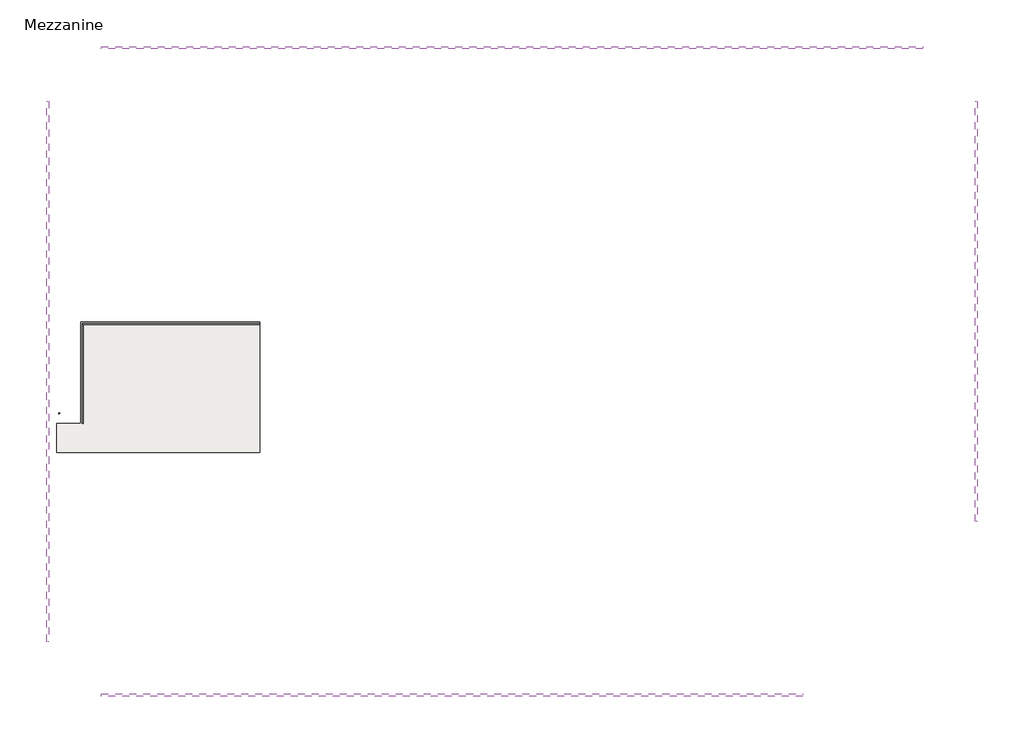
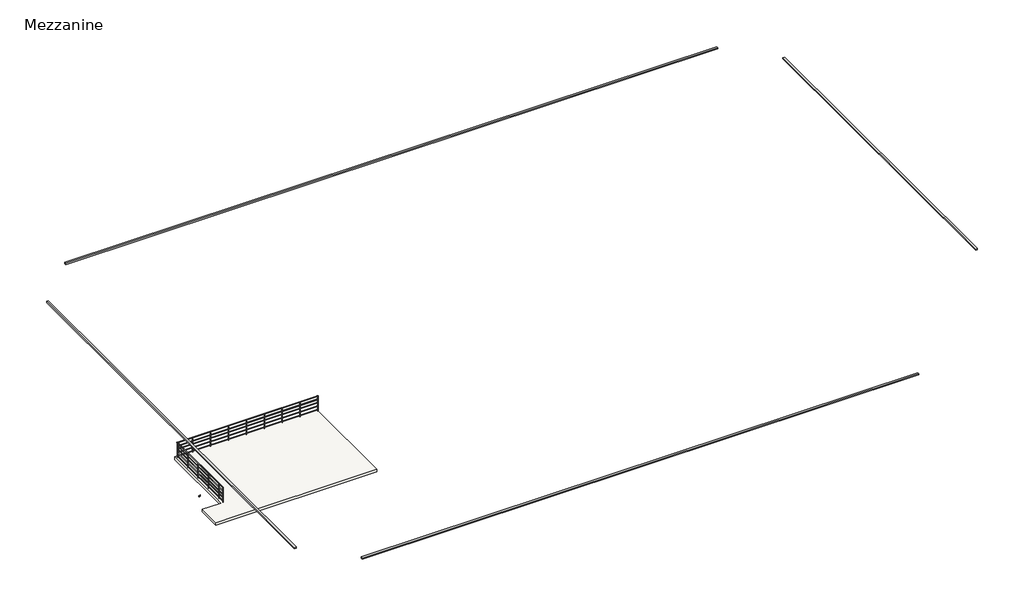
# One storey: 5 proxies, 1 railing, 1 slab.
"""IFC4 building model written with IfcOpenShell, lengths in millimetres."""

import ifcopenshell
import ifcopenshell.guid

model = None  # the IFC model being written
_history = None  # IfcOwnerHistory: only IFC2X3 demands one
_inside = {}  # id of a spatial element -> (the spatial element, [elements in it])
_under = {}  # id of a project, library or spatial element -> (it, [spatial elements below it])
_declared = {}  # id of a project -> (the project, [libraries it declares])
_typed = {}  # id of a type object -> (the type object, [elements of that type])
_made_of = {}  # id of a material, layer set ... -> (it, [elements and type objects made of it])


def new_model(schema):
    """Start an empty IFC model of exactly this schema.

    Asked for "IFC4X3", IfcOpenShell would pick the latest addendum, in which some entities
    have other attributes; the version numbers below select the first issue.
    IFC2X3 requires an IfcOwnerHistory on every rooted entity: one is made here for all.
    """
    global model, _history
    if schema == "IFC4X3":
        model = ifcopenshell.file(schema_version=(4, 3, 0, 0))
    else:
        model = ifcopenshell.file(schema=schema)
    _inside.clear()
    _under.clear()
    _declared.clear()
    _typed.clear()
    _made_of.clear()
    _history = None
    if model.schema == "IFC2X3":
        org = make("IfcOrganization", Name="unknown")
        user = make(
            "IfcPersonAndOrganization",
            ThePerson=make("IfcPerson", FamilyName="unknown"),
            TheOrganization=org,
        )
        app = make(
            "IfcApplication",
            ApplicationDeveloper=org,
            Version="unknown",
            ApplicationFullName="unknown",
            ApplicationIdentifier="unknown",
        )
        _history = make(
            "IfcOwnerHistory",
            OwningUser=user,
            OwningApplication=app,
            ChangeAction="ADDED",
            CreationDate=0,
        )
    return model


def make(cls, **values):
    """One entity of the class cls with the attributes given. An attribute that is None is left unset."""
    return model.create_entity(
        cls, **{name: value for name, value in values.items() if value is not None}
    )


def rooted(cls, **values):
    """An entity with a GlobalId (a new one), such as an element, a storey or a relation."""
    return make(cls, GlobalId=ifcopenshell.guid.new(), OwnerHistory=_history, **values)


def si_unit(unit_type, name, prefix=None):
    """IfcSIUnit, for example si_unit("LENGTHUNIT", "METRE", prefix="MILLI")."""
    return make("IfcSIUnit", UnitType=unit_type, Prefix=prefix, Name=name)


def assignment(units):
    """IfcUnitAssignment: the units of a project."""
    return None if units is None else make("IfcUnitAssignment", Units=units)


def point(xyz):
    """IfcCartesianPoint."""
    return None if xyz is None else make("IfcCartesianPoint", Coordinates=xyz)


def direction(xyz):
    """IfcDirection."""
    return None if xyz is None else make("IfcDirection", DirectionRatios=xyz)


def frame(location, z_axis=None, x_axis=None):
    """IfcAxis2Placement3D, a coordinate frame: its origin and axes. An axis left out is left unset."""
    return make(
        "IfcAxis2Placement3D",
        Location=point(location),
        Axis=direction(z_axis),
        RefDirection=direction(x_axis),
    )


def frame_2d(location, x_axis=None):
    """IfcAxis2Placement2D, a coordinate frame in the plane: its origin and x axis."""
    return make(
        "IfcAxis2Placement2D", Location=point(location), RefDirection=direction(x_axis)
    )


def origin():
    """The frame at (0, 0, 0) with its axes left unset."""
    return frame((0.0, 0.0, 0.0))


def origin_with_axes():
    """The frame at (0, 0, 0) with the z axis (0, 0, 1) and the x axis (1, 0, 0) written out."""
    return frame((0.0, 0.0, 0.0), z_axis=(0.0, 0.0, 1.0), x_axis=(1.0, 0.0, 0.0))


def place(relative_to, where):
    """IfcLocalPlacement: puts the frame where relative to a parent placement (None: the world)."""
    return make(
        "IfcLocalPlacement", PlacementRelTo=relative_to, RelativePlacement=where
    )


def context(
    kind, dimensions, precision=None, world=None, true_north=None, identifier=None
):
    """IfcGeometricRepresentationContext, for example the 3D "Model" context."""
    return make(
        "IfcGeometricRepresentationContext",
        ContextIdentifier=identifier,
        ContextType=kind,
        CoordinateSpaceDimension=dimensions,
        Precision=precision,
        WorldCoordinateSystem=world,
        TrueNorth=true_north,
    )


def project(units=None, contexts=None):
    """IfcProject with its units and contexts."""
    return rooted(
        "IfcProject",
        Name="project",
        RepresentationContexts=contexts,
        UnitsInContext=assignment(units),
    )


def spatial(cls, under=None, at=None, **own):
    """A site, building, storey or space (cls), placed at a placement, below another one or the project."""
    s = rooted(cls, ObjectPlacement=at, **own)
    if under is not None:
        _under.setdefault(under.id(), (under, []))[1].append(s)
    return s


def polyline(points):
    """IfcPolyline through the points."""
    return make("IfcPolyline", Points=[point(p) for p in points])


def circle_curve(where, radius):
    """IfcCircle in the frame where."""
    return make("IfcCircle", Position=where, Radius=radius)


def ellipse_curve(where, semi_axis1, semi_axis2):
    """IfcEllipse in the frame where."""
    return make(
        "IfcEllipse", Position=where, SemiAxis1=semi_axis1, SemiAxis2=semi_axis2
    )


def trimmed(basis, trim1, trim2, sense, master):
    """IfcTrimmedCurve: the piece of a basis curve between two trims."""
    return make(
        "IfcTrimmedCurve",
        BasisCurve=basis,
        Trim1=trim1,
        Trim2=trim2,
        SenseAgreement=sense,
        MasterRepresentation=master,
    )


def segment(curve, same_sense, transition):
    """IfcCompositeCurveSegment."""
    return make(
        "IfcCompositeCurveSegment",
        Transition=transition,
        SameSense=same_sense,
        ParentCurve=curve,
    )


def composite_curve(segments, self_intersect=None):
    """IfcCompositeCurve: segments joined end to end."""
    return make("IfcCompositeCurve", Segments=segments, SelfIntersect=self_intersect)


def outline(outer, holes=None, kind="AREA"):
    """IfcArbitraryClosedProfileDef: a profile drawn as a closed curve; with holes, ...WithVoids."""
    if holes is None:
        return make("IfcArbitraryClosedProfileDef", ProfileType=kind, OuterCurve=outer)
    return make(
        "IfcArbitraryProfileDefWithVoids",
        ProfileType=kind,
        OuterCurve=outer,
        InnerCurves=holes,
    )


def extrude(swept, where, along, depth):
    """IfcExtrudedAreaSolid: the profile swept, set in the frame where, extruded along a direction by depth."""
    return make(
        "IfcExtrudedAreaSolid",
        SweptArea=swept,
        Position=where,
        ExtrudedDirection=direction(along),
        Depth=depth,
    )


def shape(context_of_items, identifier, shape_type, items):
    """IfcShapeRepresentation: the items that make up one representation, for example the "Body"."""
    return make(
        "IfcShapeRepresentation",
        ContextOfItems=context_of_items,
        RepresentationIdentifier=identifier,
        RepresentationType=shape_type,
        Items=items,
    )


def source(mapping_origin, context_of_items, identifier, shape_type, items):
    """IfcRepresentationMap: a shape defined once, which mapped items show again and again."""
    return make(
        "IfcRepresentationMap",
        MappingOrigin=mapping_origin,
        MappedRepresentation=shape(context_of_items, identifier, shape_type, items),
    )


def transform(
    local_origin,
    x_axis=None,
    y_axis=None,
    z_axis=None,
    scale=None,
    scale2=None,
    scale3=None,
    uniform=True,
):
    """IfcCartesianTransformationOperator3D, or its non-uniform kind. x_axis, y_axis, z_axis: its Axis1, 2, 3."""
    if uniform:
        return make(
            "IfcCartesianTransformationOperator3D",
            Axis1=direction(x_axis),
            Axis2=direction(y_axis),
            LocalOrigin=point(local_origin),
            Scale=scale,
            Axis3=direction(z_axis),
        )
    return make(
        "IfcCartesianTransformationOperator3DnonUniform",
        Axis1=direction(x_axis),
        Axis2=direction(y_axis),
        LocalOrigin=point(local_origin),
        Scale=scale,
        Axis3=direction(z_axis),
        Scale2=scale2,
        Scale3=scale3,
    )


def mapped(mapping_source, mapping_target):
    """IfcMappedItem: shows the shape of a source again, moved by a transform."""
    return make(
        "IfcMappedItem", MappingSource=mapping_source, MappingTarget=mapping_target
    )


def made_of(thing, what):
    """Note that an element or type object is made of a material, layer set ...; save() writes the relation."""
    if what is not None:
        _made_of.setdefault(what.id(), (what, []))[1].append(thing)
    return thing


def element(
    cls,
    number,
    at=None,
    inside=None,
    cuts=None,
    type_object=None,
    material=None,
    context=None,
    identifier="Body",
    shape_type=None,
    held_by="IfcProductDefinitionShape",
    body=None,
    shapes=None,
    **own,
):
    """One element of the class cls, such as IfcWall. Its Tag is "e" and its number.

    at: its placement. inside: the storey or other place that contains it. cuts: it is an
    opening in that element (IfcRelVoidsElement). A single representation is given by context,
    identifier, shape_type and body (its items); several are given by shapes. held_by: the class
    of the entity that holds the representations. save() writes the other relations.
    """
    e = rooted(cls, Tag="e%d" % number, ObjectPlacement=at, **own)
    if body is not None:
        shapes = [shape(context, identifier, shape_type, body)]
    if shapes is not None:
        e.Representation = make(held_by, Representations=shapes)
    if inside is not None:
        _inside.setdefault(inside.id(), (inside, []))[1].append(e)
    if cuts is not None:
        rooted(
            "IfcRelVoidsElement", RelatingBuildingElement=cuts, RelatedOpeningElement=e
        )
    if type_object is not None:
        _typed.setdefault(type_object.id(), (type_object, []))[1].append(e)
    return made_of(e, material)


def aggregate(whole, parts):
    """IfcRelAggregates: a whole, such as a stair, and the parts it consists of."""
    return rooted("IfcRelAggregates", RelatingObject=whole, RelatedObjects=parts)


def save(model, path):
    """Write the relations noted so far, then the file.

    IfcRelAggregates (storeys below a building ...), IfcRelContainedInSpatialStructure (elements
    in a storey), IfcRelDefinesByType, IfcRelAssociatesMaterial and IfcRelDeclares: one each for
    every whole, place, type object, material and project.
    """
    for whole, parts in _under.values():
        aggregate(whole, parts)
    for where, things in _inside.values():
        rooted(
            "IfcRelContainedInSpatialStructure",
            RelatedElements=things,
            RelatingStructure=where,
        )
    for kind, things in _typed.values():
        rooted("IfcRelDefinesByType", RelatedObjects=things, RelatingType=kind)
    for what, things in _made_of.values():
        rooted("IfcRelAssociatesMaterial", RelatedObjects=things, RelatingMaterial=what)
    for by, libraries in _declared.values():
        rooted("IfcRelDeclares", RelatingContext=by, RelatedDefinitions=libraries)
    model.write(path)


def plane_surface(at):
    """IfcPlane: the flat surface through the origin of the frame at, square to its z axis."""
    return make("IfcPlane", Position=at)


def cylinder_surface(at, radius):
    """IfcCylindricalSurface: all points at the distance radius from the z axis of the frame at."""
    return make("IfcCylindricalSurface", Position=at, Radius=radius)


def revolved_surface(curve, axis_point, axis_direction):
    """IfcSurfaceOfRevolution: the curve turned about the line through axis_point along axis_direction."""
    return make(
        "IfcSurfaceOfRevolution",
        SweptCurve=make("IfcArbitraryOpenProfileDef", ProfileType="CURVE", Curve=curve),
        AxisPosition=make("IfcAxis1Placement", Location=point(axis_point), Axis=direction(axis_direction)),
    )


def advanced_brep(points, edges, surfaces, faces):
    """IfcAdvancedBrep: a solid bounded by faces that lie on surfaces and meet in shared edges.

    An edge is (start, end): straight between two places in points (the first is 0);
    or (start, end, curve); or (start, end, curve, False) where it runs against its curve.
    A face is (place in surfaces, loops), or (place, loops, False) where it looks against
    its surface's normal. A loop lists edges by number (the first is 1), with a minus sign
    where the edge is run from its end to its start. The first loop is the outer one.
    """
    corners = [point(p) for p in points]
    vertices = [make("IfcVertexPoint", VertexGeometry=c) for c in corners]
    made = []
    for start, end, *more in edges:
        made.append(
            make(
                "IfcEdgeCurve",
                EdgeStart=vertices[start],
                EdgeEnd=vertices[end],
                EdgeGeometry=more[0] if more else make("IfcPolyline", Points=[corners[start], corners[end]]),
                SameSense=more[1] if len(more) > 1 else True,
            )
        )
    hull = []
    for where, loops, *sense in faces:
        bounds = []
        for j, loop in enumerate(loops):
            ring = [make("IfcOrientedEdge", EdgeElement=made[abs(k) - 1], Orientation=k > 0) for k in loop]
            bounds.append(
                make(
                    "IfcFaceOuterBound" if j == 0 else "IfcFaceBound",
                    Bound=make("IfcEdgeLoop", EdgeList=ring),
                    Orientation=True,
                )
            )
        hull.append(make("IfcAdvancedFace", Bounds=bounds, FaceSurface=surfaces[where], SameSense=sense[0] if sense else True))
    return make("IfcAdvancedBrep", Outer=make("IfcClosedShell", CfsFaces=hull))


def m_support_metal_circular_m_support_metal_circular_cf76aa7a(model_context):
    return source(origin(), model_context, "Body", "SolidModel", [
        advanced_brep(
        [(-6.0, 0.0, 0.0), (6.0, 0.0, 0.0), (-6.0, 0.0, -63.0), (6.0, 0.0, -63.0), (6.0, 12.0, -75.0), (-6.0, 12.0, -75.0), (-6.0, 43.0, -75.0), (6.0, 43.0, -75.0)],
        [
            (0, 1, circle_curve(origin_with_axes(), 6.0)),
            (1, 0, circle_curve(origin_with_axes(), 6.0)),
            (0, 2),
            (2, 3, circle_curve(frame((0.0, 0.0, -63.0), z_axis=(0.0, 0.0, 1.0), x_axis=(1.0, 0.0, 0.0)), 6.0)),
            (3, 1),
            (3, 2, circle_curve(frame((0.0, 0.0, -63.0), z_axis=(0.0, 0.0, 1.0), x_axis=(1.0, 0.0, 0.0)), 6.0)),
            (4, 3, circle_curve(frame((6.0, 12.0, -63.0), z_axis=(-1.0, 0.0, 0.0), x_axis=(0.0, -1.0, 0.0)), 12.0)),
            (2, 5, circle_curve(frame((-6.0, 12.0, -63.0), z_axis=(1.0, 0.0, 0.0), x_axis=(0.0, -1.0, 0.0)), 12.0)),
            (5, 4, circle_curve(frame((0.0, 12.0, -75.0), z_axis=(0.0, -1.0, 0.0), x_axis=(1.0, 0.0, 0.0)), 6.0)),
            (4, 5, circle_curve(frame((0.0, 12.0, -75.0), z_axis=(0.0, -1.0, 0.0), x_axis=(1.0, 0.0, 0.0)), 6.0)),
            (6, 7, circle_curve(frame((0.0, 43.0, -75.0), z_axis=(0.0, 1.0, 0.0), x_axis=(1.0, 0.0, 0.0)), 6.0)),
            (7, 6, circle_curve(frame((0.0, 43.0, -75.0), z_axis=(0.0, 1.0, 0.0), x_axis=(1.0, 0.0, 0.0)), 6.0)),
            (5, 6),
            (7, 4),
        ],
        [
            plane_surface(origin_with_axes()),
            cylinder_surface(origin_with_axes(), 6.0),
            revolved_surface(trimmed(ellipse_curve(frame((0.0, 0.0, -63.0), z_axis=(0.0, 0.0, 1.0), x_axis=(1.0, 0.0, 0.0)), 6.0, 6.0), [point((-6.0, 0.0, -63.0))], [point((6.0, 0.0, -63.0))], True, "CARTESIAN"), (0.0, 12.0, -63.0), (1.0, 0.0, 0.0)),
            revolved_surface(trimmed(ellipse_curve(frame((0.0, 0.0, -63.0), z_axis=(0.0, 0.0, 1.0), x_axis=(1.0, 0.0, 0.0)), 6.0, 6.0), [point((6.0, 0.0, -63.0))], [point((-6.0, 0.0, -63.0))], True, "CARTESIAN"), (0.0, 12.0, -63.0), (1.0, 0.0, 0.0)),
            plane_surface(frame((0.0, 43.0, -75.0), z_axis=(0.0, 1.0, 0.0), x_axis=(1.0, 0.0, 0.0))),
            cylinder_surface(frame((0.0, 12.0, -75.0), z_axis=(0.0, -1.0, 0.0), x_axis=(1.0, 0.0, 0.0)), 6.0),
        ],
        [
            (0, [[1, 2]]),
            (1, [[-1, 3, 4, 5]]),
            (1, [[-2, -5, 6, -3]]),
            (2, [[7, -4, 8, 9]]),
            (3, [[-8, -6, -7, 10]]),
            (4, [[11, 12]]),
            (5, [[-9, 13, -12, 14]]),
            (5, [[-10, -14, -11, -13]]),
        ],
    ),
        extrude(outline(composite_curve([segment(trimmed(circle_curve(frame_2d((-75.0, 0.0)), 25.0), [point((-75.0, -25.0))], [point((-75.0, 25.0))], False, "CARTESIAN"), True, "CONTINUOUS"), segment(trimmed(circle_curve(frame_2d((-75.0, 0.0)), 25.0), [point((-75.0, 25.0))], [point((-75.0, -25.0))], False, "CARTESIAN"), True, "CONTINUOUS")], self_intersect=False)), frame((0.0, 43.0, 0.0), z_axis=(0.0, 1.0, 0.0), x_axis=(0.0, 0.0, 1.0)), (0.0, 0.0, 1.0), 12.0),
    ])


model = new_model("IFC4")

# Units and contexts
model_context = context("Model", 3, world=origin())
ifc_project = project(units=[si_unit("LENGTHUNIT", "METRE", prefix="MILLI")], contexts=[model_context])

# Site, building, storey
site = spatial("IfcSite", under=ifc_project)
building = spatial("IfcBuilding", under=site)
storey = spatial("IfcBuildingStorey", under=building, Name="Mezzanine", Elevation=3500.0)

# Proxies
placement = place(None, origin())
element("IfcBuildingElementProxy", 1, Name="Reveals", at=placement, inside=storey, context=model_context, shape_type="SweptSolid", body=[
    extrude(outline(polyline([(11070.0272279, -14331.9313057), (11070.0272279, -14434.4313057), (-20031.4727721, -14434.4313057), (-20031.4727721, -14331.9313057), (11070.0272279, -14331.9313057)])), frame((0.0, 0.0, 7200.0), z_axis=(0.0, 0.0, 1.0), x_axis=(1.0, 0.0, 0.0)), (0.0, 0.0, 1.0), 75.0),
])
element("IfcBuildingElementProxy", 2, Name="Reveals", at=placement, inside=storey, context=model_context, shape_type="SweptSolid", body=[
    extrude(outline(polyline([(-22344.4727721, -12018.7313057), (-22446.9727721, -12018.7313057), (-22446.9727721, 11955.0686943), (-22344.4727721, 11955.0686943), (-22344.4727721, -12018.7313057)])), frame((0.0, 0.0, 7200.0), z_axis=(0.0, 0.0, 1.0), x_axis=(1.0, 0.0, 0.0)), (0.0, 0.0, 1.0), 75.0),
])
element("IfcBuildingElementProxy", 3, Name="Reveals", at=placement, inside=storey, context=model_context, shape_type="SweptSolid", body=[
    extrude(outline(polyline([(-20031.4727721, 14268.0686943), (-20031.4727721, 14370.5686943), (16392.5272279, 14370.5686943), (16392.5272279, 14268.0686943), (-20031.4727721, 14268.0686943)])), frame((0.0, 0.0, 7200.0), z_axis=(0.0, 0.0, 1.0), x_axis=(1.0, 0.0, 0.0)), (0.0, 0.0, 1.0), 75.0),
])
element("IfcBuildingElementProxy", 4, Name="Reveals", at=placement, inside=storey, context=model_context, shape_type="SweptSolid", body=[
    extrude(outline(polyline([(18705.5272279, 11955.0686943), (18808.0272279, 11955.0686943), (18808.0272279, -6696.4313057), (18705.5272279, -6696.4313057), (18705.5272279, 11955.0686943)])), frame((0.0, 0.0, 7200.0), z_axis=(0.0, 0.0, 1.0), x_axis=(1.0, 0.0, 0.0)), (0.0, 0.0, 1.0), 75.0),
])
m_support_metal_circular_m_support_metal_circular_shape = m_support_metal_circular_m_support_metal_circular_cf76aa7a(model_context)
element("IfcBuildingElementProxy", 5, Name="M_Support - Metal - Circular : M_Support - Metal - Circular", ObjectType="M_Support - Metal - Circular : M_Support - Metal - Circular", at=placement, inside=storey, context=model_context, shape_type="MappedRepresentation", body=[
    mapped(m_support_metal_circular_m_support_metal_circular_shape, transform((-21860.0727721, -1894.8153153, 4043.6776913), x_axis=(0.0, 1.0, 0.0), y_axis=(-1.0, 0.0, 0.0), z_axis=(0.0, 0.0, 1.0))),
])

# Railing
element("IfcRailing", 6, ObjectType="900mm Pipe", at=placement, inside=storey, context=model_context, shape_type="SolidModel", body=[
    advanced_brep(
    [(-12988.7227721, 2082.3186943, 4380.0), (-12988.7227721, 2042.3186943, 4380.0), (-20860.4727721, 2082.3186943, 4380.0), (-20820.4727721, 2042.3186943, 4380.0), (-20860.4727721, -2337.6813057, 4380.0), (-20820.4727721, -2337.6813057, 4380.0)],
    [
        (0, 1, circle_curve(frame((-12988.7227721, 2062.3186943, 4380.0), z_axis=(1.0, 0.0, 0.0), x_axis=(0.0, -1.0, 0.0)), 20.0)),
        (1, 0, circle_curve(frame((-12988.7227721, 2062.3186943, 4380.0), z_axis=(1.0, 0.0, 0.0), x_axis=(0.0, -1.0, 0.0)), 20.0)),
        (0, 2),
        (2, 3, ellipse_curve(frame((-20840.4727721, 2062.3186943, 4380.0), z_axis=(0.7071067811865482, 0.7071067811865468, 0.0), x_axis=(0.7071067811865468, -0.7071067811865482, 0.0)), 28.2842712, 20.0)),
        (3, 1),
        (3, 2, ellipse_curve(frame((-20840.4727721, 2062.3186943, 4380.0), z_axis=(0.7071067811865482, 0.7071067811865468, 0.0), x_axis=(0.7071067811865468, -0.7071067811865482, 0.0)), 28.2842712, 20.0)),
        (4, 5, circle_curve(frame((-20840.4727721, -2337.6813057, 4380.0), z_axis=(0.0, -1.0, 0.0), x_axis=(1.0, 0.0, 0.0)), 20.0)),
        (5, 4, circle_curve(frame((-20840.4727721, -2337.6813057, 4380.0), z_axis=(0.0, -1.0, 0.0), x_axis=(1.0, 0.0, 0.0)), 20.0)),
        (2, 4),
        (5, 3),
    ],
    [
        plane_surface(frame((-12988.7227721, 2062.3186943, 4400.0), z_axis=(1.0, 0.0, 0.0), x_axis=(0.0, -1.0, 0.0))),
        cylinder_surface(frame((-12988.7227721, 2062.3186943, 4380.0), z_axis=(1.0, 0.0, 0.0), x_axis=(0.0, -1.0, 0.0)), 20.0),
        plane_surface(frame((-20840.4727721, -2337.6813057, 4400.0), z_axis=(0.0, -1.0, 0.0), x_axis=(0.0, 0.0, -1.0))),
        cylinder_surface(frame((-20840.4727721, 2062.3186943, 4380.0), z_axis=(0.0, 1.0, 0.0), x_axis=(1.0, 0.0, 0.0)), 20.0),
    ],
    [
        (0, [[1, 2]]),
        (1, [[-1, 3, 4, 5]]),
        (1, [[-2, -5, 6, -3]]),
        (2, [[7, 8]]),
        (3, [[-4, 9, -8, 10]]),
        (3, [[-6, -10, -7, -9]]),
    ],
),
    advanced_brep(
    [(-12988.7227721, 2047.3186943, 4185.0), (-12988.7227721, 2077.3186943, 4185.0), (-20825.4727721, 2047.3186943, 4185.0), (-20855.4727721, 2077.3186943, 4185.0), (-20825.4727721, -2337.6813057, 4185.0), (-20855.4727721, -2337.6813057, 4185.0)],
    [
        (0, 1, circle_curve(frame((-12988.7227721, 2062.3186943, 4185.0), z_axis=(1.0, 0.0, 0.0), x_axis=(0.0, 1.0, 0.0)), 15.0)),
        (1, 0, circle_curve(frame((-12988.7227721, 2062.3186943, 4185.0), z_axis=(1.0, 0.0, 0.0), x_axis=(0.0, 1.0, 0.0)), 15.0)),
        (0, 2),
        (2, 3, ellipse_curve(frame((-20840.4727721, 2062.3186943, 4185.0), z_axis=(0.7071067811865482, 0.7071067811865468, 0.0), x_axis=(0.7071067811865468, -0.7071067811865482, 0.0)), 21.2132034, 15.0)),
        (3, 1),
        (3, 2, ellipse_curve(frame((-20840.4727721, 2062.3186943, 4185.0), z_axis=(0.7071067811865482, 0.7071067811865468, 0.0), x_axis=(0.7071067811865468, -0.7071067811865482, 0.0)), 21.2132034, 15.0)),
        (4, 5, circle_curve(frame((-20840.4727721, -2337.6813057, 4185.0), z_axis=(0.0, -1.0, 0.0), x_axis=(-1.0, 0.0, 0.0)), 15.0)),
        (5, 4, circle_curve(frame((-20840.4727721, -2337.6813057, 4185.0), z_axis=(0.0, -1.0, 0.0), x_axis=(-1.0, 0.0, 0.0)), 15.0)),
        (2, 4),
        (5, 3),
    ],
    [
        plane_surface(frame((-12988.7227721, 2062.3186943, 4200.0), z_axis=(1.0, 0.0, 0.0), x_axis=(0.0, -1.0, 0.0))),
        cylinder_surface(frame((-12988.7227721, 2062.3186943, 4185.0), z_axis=(1.0, 0.0, 0.0), x_axis=(0.0, 1.0, 0.0)), 15.0),
        plane_surface(frame((-20840.4727721, -2337.6813057, 4200.0), z_axis=(0.0, -1.0, 0.0), x_axis=(0.0, 0.0, -1.0))),
        cylinder_surface(frame((-20840.4727721, 2062.3186943, 4185.0), z_axis=(0.0, 1.0, 0.0), x_axis=(-1.0, 0.0, 0.0)), 15.0),
    ],
    [
        (0, [[1, 2]]),
        (1, [[-1, 3, 4, 5]]),
        (1, [[-2, -5, 6, -3]]),
        (2, [[7, 8]]),
        (3, [[-4, 9, -8, 10]]),
        (3, [[-6, -10, -7, -9]]),
    ],
),
    advanced_brep(
    [(-12988.7227721, 2047.3186943, 3985.0), (-12988.7227721, 2077.3186943, 3985.0), (-20825.4727721, 2047.3186943, 3985.0), (-20855.4727721, 2077.3186943, 3985.0), (-20825.4727721, -2337.6813057, 3985.0), (-20855.4727721, -2337.6813057, 3985.0)],
    [
        (0, 1, circle_curve(frame((-12988.7227721, 2062.3186943, 3985.0), z_axis=(1.0, 0.0, 0.0), x_axis=(0.0, 1.0, 0.0)), 15.0)),
        (1, 0, circle_curve(frame((-12988.7227721, 2062.3186943, 3985.0), z_axis=(1.0, 0.0, 0.0), x_axis=(0.0, 1.0, 0.0)), 15.0)),
        (0, 2),
        (2, 3, ellipse_curve(frame((-20840.4727721, 2062.3186943, 3985.0), z_axis=(0.7071067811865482, 0.7071067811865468, 0.0), x_axis=(0.7071067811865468, -0.7071067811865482, 0.0)), 21.2132034, 15.0)),
        (3, 1),
        (3, 2, ellipse_curve(frame((-20840.4727721, 2062.3186943, 3985.0), z_axis=(0.7071067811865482, 0.7071067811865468, 0.0), x_axis=(0.7071067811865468, -0.7071067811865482, 0.0)), 21.2132034, 15.0)),
        (4, 5, circle_curve(frame((-20840.4727721, -2337.6813057, 3985.0), z_axis=(0.0, -1.0, 0.0), x_axis=(-1.0, 0.0, 0.0)), 15.0)),
        (5, 4, circle_curve(frame((-20840.4727721, -2337.6813057, 3985.0), z_axis=(0.0, -1.0, 0.0), x_axis=(-1.0, 0.0, 0.0)), 15.0)),
        (2, 4),
        (5, 3),
    ],
    [
        plane_surface(frame((-12988.7227721, 2062.3186943, 4000.0), z_axis=(1.0, 0.0, 0.0), x_axis=(0.0, -1.0, 0.0))),
        cylinder_surface(frame((-12988.7227721, 2062.3186943, 3985.0), z_axis=(1.0, 0.0, 0.0), x_axis=(0.0, 1.0, 0.0)), 15.0),
        plane_surface(frame((-20840.4727721, -2337.6813057, 4000.0), z_axis=(0.0, -1.0, 0.0), x_axis=(0.0, 0.0, -1.0))),
        cylinder_surface(frame((-20840.4727721, 2062.3186943, 3985.0), z_axis=(0.0, 1.0, 0.0), x_axis=(-1.0, 0.0, 0.0)), 15.0),
    ],
    [
        (0, [[1, 2]]),
        (1, [[-1, 3, 4, 5]]),
        (1, [[-2, -5, 6, -3]]),
        (2, [[7, 8]]),
        (3, [[-4, 9, -8, 10]]),
        (3, [[-6, -10, -7, -9]]),
    ],
),
    advanced_brep(
    [(-12988.7227721, 2047.3186943, 3785.0), (-12988.7227721, 2077.3186943, 3785.0), (-20825.4727721, 2047.3186943, 3785.0), (-20855.4727721, 2077.3186943, 3785.0), (-20825.4727721, -2337.6813057, 3785.0), (-20855.4727721, -2337.6813057, 3785.0)],
    [
        (0, 1, circle_curve(frame((-12988.7227721, 2062.3186943, 3785.0), z_axis=(1.0, 0.0, 0.0), x_axis=(0.0, 1.0, 0.0)), 15.0)),
        (1, 0, circle_curve(frame((-12988.7227721, 2062.3186943, 3785.0), z_axis=(1.0, 0.0, 0.0), x_axis=(0.0, 1.0, 0.0)), 15.0)),
        (0, 2),
        (2, 3, ellipse_curve(frame((-20840.4727721, 2062.3186943, 3785.0), z_axis=(0.7071067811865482, 0.7071067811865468, 0.0), x_axis=(0.7071067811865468, -0.7071067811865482, 0.0)), 21.2132034, 15.0)),
        (3, 1),
        (3, 2, ellipse_curve(frame((-20840.4727721, 2062.3186943, 3785.0), z_axis=(0.7071067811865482, 0.7071067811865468, 0.0), x_axis=(0.7071067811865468, -0.7071067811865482, 0.0)), 21.2132034, 15.0)),
        (4, 5, circle_curve(frame((-20840.4727721, -2337.6813057, 3785.0), z_axis=(0.0, -1.0, 0.0), x_axis=(-1.0, 0.0, 0.0)), 15.0)),
        (5, 4, circle_curve(frame((-20840.4727721, -2337.6813057, 3785.0), z_axis=(0.0, -1.0, 0.0), x_axis=(-1.0, 0.0, 0.0)), 15.0)),
        (2, 4),
        (5, 3),
    ],
    [
        plane_surface(frame((-12988.7227721, 2062.3186943, 3800.0), z_axis=(1.0, 0.0, 0.0), x_axis=(0.0, -1.0, 0.0))),
        cylinder_surface(frame((-12988.7227721, 2062.3186943, 3785.0), z_axis=(1.0, 0.0, 0.0), x_axis=(0.0, 1.0, 0.0)), 15.0),
        plane_surface(frame((-20840.4727721, -2337.6813057, 3800.0), z_axis=(0.0, -1.0, 0.0), x_axis=(0.0, 0.0, -1.0))),
        cylinder_surface(frame((-20840.4727721, 2062.3186943, 3785.0), z_axis=(0.0, 1.0, 0.0), x_axis=(-1.0, 0.0, 0.0)), 15.0),
    ],
    [
        (0, [[1, 2]]),
        (1, [[-1, 3, 4, 5]]),
        (1, [[-2, -5, 6, -3]]),
        (2, [[7, 8]]),
        (3, [[-4, 9, -8, 10]]),
        (3, [[-6, -10, -7, -9]]),
    ],
),
    advanced_brep(
    [(-12988.7227721, 2047.3186943, 3585.0), (-12988.7227721, 2077.3186943, 3585.0), (-20825.4727721, 2047.3186943, 3585.0), (-20855.4727721, 2077.3186943, 3585.0), (-20825.4727721, -2337.6813057, 3585.0), (-20855.4727721, -2337.6813057, 3585.0)],
    [
        (0, 1, circle_curve(frame((-12988.7227721, 2062.3186943, 3585.0), z_axis=(1.0, 0.0, 0.0), x_axis=(0.0, 1.0, 0.0)), 15.0)),
        (1, 0, circle_curve(frame((-12988.7227721, 2062.3186943, 3585.0), z_axis=(1.0, 0.0, 0.0), x_axis=(0.0, 1.0, 0.0)), 15.0)),
        (0, 2),
        (2, 3, ellipse_curve(frame((-20840.4727721, 2062.3186943, 3585.0), z_axis=(0.7071067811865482, 0.7071067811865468, 0.0), x_axis=(0.7071067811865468, -0.7071067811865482, 0.0)), 21.2132034, 15.0)),
        (3, 1),
        (3, 2, ellipse_curve(frame((-20840.4727721, 2062.3186943, 3585.0), z_axis=(0.7071067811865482, 0.7071067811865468, 0.0), x_axis=(0.7071067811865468, -0.7071067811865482, 0.0)), 21.2132034, 15.0)),
        (4, 5, circle_curve(frame((-20840.4727721, -2337.6813057, 3585.0), z_axis=(0.0, -1.0, 0.0), x_axis=(-1.0, 0.0, 0.0)), 15.0)),
        (5, 4, circle_curve(frame((-20840.4727721, -2337.6813057, 3585.0), z_axis=(0.0, -1.0, 0.0), x_axis=(-1.0, 0.0, 0.0)), 15.0)),
        (2, 4),
        (5, 3),
    ],
    [
        plane_surface(frame((-12988.7227721, 2062.3186943, 3600.0), z_axis=(1.0, 0.0, 0.0), x_axis=(0.0, -1.0, 0.0))),
        cylinder_surface(frame((-12988.7227721, 2062.3186943, 3585.0), z_axis=(1.0, 0.0, 0.0), x_axis=(0.0, 1.0, 0.0)), 15.0),
        plane_surface(frame((-20840.4727721, -2337.6813057, 3600.0), z_axis=(0.0, -1.0, 0.0), x_axis=(0.0, 0.0, -1.0))),
        cylinder_surface(frame((-20840.4727721, 2062.3186943, 3585.0), z_axis=(0.0, 1.0, 0.0), x_axis=(-1.0, 0.0, 0.0)), 15.0),
    ],
    [
        (0, [[1, 2]]),
        (1, [[-1, 3, 4, 5]]),
        (1, [[-2, -5, 6, -3]]),
        (2, [[7, 8]]),
        (3, [[-4, 9, -8, 10]]),
        (3, [[-6, -10, -7, -9]]),
    ],
),
    extrude(outline(composite_curve([segment(trimmed(circle_curve(frame_2d((-20840.4727721, -1937.6813057)), 12.5), [point((-20827.9727721, -1937.6813057))], [point((-20852.9727721, -1937.6813057))], False, "CARTESIAN"), True, "CONTINUOUS"), segment(trimmed(circle_curve(frame_2d((-20840.4727721, -1937.6813057)), 12.5), [point((-20852.9727721, -1937.6813057))], [point((-20827.9727721, -1937.6813057))], False, "CARTESIAN"), True, "CONTINUOUS")], self_intersect=False)), frame((0.0, 0.0, 3500.0), z_axis=(0.0, 0.0, 1.0), x_axis=(1.0, 0.0, 0.0)), (0.0, 0.0, 1.0), 860.0),
    extrude(outline(composite_curve([segment(trimmed(circle_curve(frame_2d((-20840.4727721, -937.6813057)), 12.5), [point((-20827.9727721, -937.6813057))], [point((-20852.9727721, -937.6813057))], False, "CARTESIAN"), True, "CONTINUOUS"), segment(trimmed(circle_curve(frame_2d((-20840.4727721, -937.6813057)), 12.5), [point((-20852.9727721, -937.6813057))], [point((-20827.9727721, -937.6813057))], False, "CARTESIAN"), True, "CONTINUOUS")], self_intersect=False)), frame((0.0, 0.0, 3500.0), z_axis=(0.0, 0.0, 1.0), x_axis=(1.0, 0.0, 0.0)), (0.0, 0.0, 1.0), 860.0),
    extrude(outline(composite_curve([segment(trimmed(circle_curve(frame_2d((-20840.4727721, 62.3186943)), 12.5), [point((-20827.9727721, 62.3186943))], [point((-20852.9727721, 62.3186943))], False, "CARTESIAN"), True, "CONTINUOUS"), segment(trimmed(circle_curve(frame_2d((-20840.4727721, 62.3186943)), 12.5), [point((-20852.9727721, 62.3186943))], [point((-20827.9727721, 62.3186943))], False, "CARTESIAN"), True, "CONTINUOUS")], self_intersect=False)), frame((0.0, 0.0, 3500.0), z_axis=(0.0, 0.0, 1.0), x_axis=(1.0, 0.0, 0.0)), (0.0, 0.0, 1.0), 860.0),
    extrude(outline(composite_curve([segment(trimmed(circle_curve(frame_2d((-20840.4727721, 1062.3186943)), 12.5), [point((-20827.9727721, 1062.3186943))], [point((-20852.9727721, 1062.3186943))], False, "CARTESIAN"), True, "CONTINUOUS"), segment(trimmed(circle_curve(frame_2d((-20840.4727721, 1062.3186943)), 12.5), [point((-20852.9727721, 1062.3186943))], [point((-20827.9727721, 1062.3186943))], False, "CARTESIAN"), True, "CONTINUOUS")], self_intersect=False)), frame((0.0, 0.0, 3500.0), z_axis=(0.0, 0.0, 1.0), x_axis=(1.0, 0.0, 0.0)), (0.0, 0.0, 1.0), 860.0),
    extrude(outline(composite_curve([segment(trimmed(circle_curve(frame_2d((-19988.7227721, 2062.3186943)), 12.5), [point((-19988.7227721, 2049.8186943))], [point((-19988.7227721, 2074.8186943))], False, "CARTESIAN"), True, "CONTINUOUS"), segment(trimmed(circle_curve(frame_2d((-19988.7227721, 2062.3186943)), 12.5), [point((-19988.7227721, 2074.8186943))], [point((-19988.7227721, 2049.8186943))], False, "CARTESIAN"), True, "CONTINUOUS")], self_intersect=False)), frame((0.0, 0.0, 3500.0), z_axis=(0.0, 0.0, 1.0), x_axis=(1.0, 0.0, 0.0)), (0.0, 0.0, 1.0), 860.0),
    extrude(outline(composite_curve([segment(trimmed(circle_curve(frame_2d((-18988.7227721, 2062.3186943)), 12.5), [point((-18988.7227721, 2049.8186943))], [point((-18988.7227721, 2074.8186943))], False, "CARTESIAN"), True, "CONTINUOUS"), segment(trimmed(circle_curve(frame_2d((-18988.7227721, 2062.3186943)), 12.5), [point((-18988.7227721, 2074.8186943))], [point((-18988.7227721, 2049.8186943))], False, "CARTESIAN"), True, "CONTINUOUS")], self_intersect=False)), frame((0.0, 0.0, 3500.0), z_axis=(0.0, 0.0, 1.0), x_axis=(1.0, 0.0, 0.0)), (0.0, 0.0, 1.0), 860.0),
    extrude(outline(composite_curve([segment(trimmed(circle_curve(frame_2d((-17988.7227721, 2062.3186943)), 12.5), [point((-17988.7227721, 2049.8186943))], [point((-17988.7227721, 2074.8186943))], False, "CARTESIAN"), True, "CONTINUOUS"), segment(trimmed(circle_curve(frame_2d((-17988.7227721, 2062.3186943)), 12.5), [point((-17988.7227721, 2074.8186943))], [point((-17988.7227721, 2049.8186943))], False, "CARTESIAN"), True, "CONTINUOUS")], self_intersect=False)), frame((0.0, 0.0, 3500.0), z_axis=(0.0, 0.0, 1.0), x_axis=(1.0, 0.0, 0.0)), (0.0, 0.0, 1.0), 860.0),
    extrude(outline(composite_curve([segment(trimmed(circle_curve(frame_2d((-16988.7227721, 2062.3186943)), 12.5), [point((-16988.7227721, 2049.8186943))], [point((-16988.7227721, 2074.8186943))], False, "CARTESIAN"), True, "CONTINUOUS"), segment(trimmed(circle_curve(frame_2d((-16988.7227721, 2062.3186943)), 12.5), [point((-16988.7227721, 2074.8186943))], [point((-16988.7227721, 2049.8186943))], False, "CARTESIAN"), True, "CONTINUOUS")], self_intersect=False)), frame((0.0, 0.0, 3500.0), z_axis=(0.0, 0.0, 1.0), x_axis=(1.0, 0.0, 0.0)), (0.0, 0.0, 1.0), 860.0),
    extrude(outline(composite_curve([segment(trimmed(circle_curve(frame_2d((-15988.7227721, 2062.3186943)), 12.5), [point((-15988.7227721, 2049.8186943))], [point((-15988.7227721, 2074.8186943))], False, "CARTESIAN"), True, "CONTINUOUS"), segment(trimmed(circle_curve(frame_2d((-15988.7227721, 2062.3186943)), 12.5), [point((-15988.7227721, 2074.8186943))], [point((-15988.7227721, 2049.8186943))], False, "CARTESIAN"), True, "CONTINUOUS")], self_intersect=False)), frame((0.0, 0.0, 3500.0), z_axis=(0.0, 0.0, 1.0), x_axis=(1.0, 0.0, 0.0)), (0.0, 0.0, 1.0), 860.0),
    extrude(outline(composite_curve([segment(trimmed(circle_curve(frame_2d((-14988.7227721, 2062.3186943)), 12.5), [point((-14988.7227721, 2049.8186943))], [point((-14988.7227721, 2074.8186943))], False, "CARTESIAN"), True, "CONTINUOUS"), segment(trimmed(circle_curve(frame_2d((-14988.7227721, 2062.3186943)), 12.5), [point((-14988.7227721, 2074.8186943))], [point((-14988.7227721, 2049.8186943))], False, "CARTESIAN"), True, "CONTINUOUS")], self_intersect=False)), frame((0.0, 0.0, 3500.0), z_axis=(0.0, 0.0, 1.0), x_axis=(1.0, 0.0, 0.0)), (0.0, 0.0, 1.0), 860.0),
    extrude(outline(composite_curve([segment(trimmed(circle_curve(frame_2d((-13988.7227721, 2062.3186943)), 12.5), [point((-13988.7227721, 2049.8186943))], [point((-13988.7227721, 2074.8186943))], False, "CARTESIAN"), True, "CONTINUOUS"), segment(trimmed(circle_curve(frame_2d((-13988.7227721, 2062.3186943)), 12.5), [point((-13988.7227721, 2074.8186943))], [point((-13988.7227721, 2049.8186943))], False, "CARTESIAN"), True, "CONTINUOUS")], self_intersect=False)), frame((0.0, 0.0, 3500.0), z_axis=(0.0, 0.0, 1.0), x_axis=(1.0, 0.0, 0.0)), (0.0, 0.0, 1.0), 860.0),
    extrude(outline(composite_curve([segment(trimmed(circle_curve(frame_2d((-20840.4727721, 2062.3186943)), 12.5), [point((-20840.4727721, 2049.8186943))], [point((-20840.4727721, 2074.8186943))], False, "CARTESIAN"), True, "CONTINUOUS"), segment(trimmed(circle_curve(frame_2d((-20840.4727721, 2062.3186943)), 12.5), [point((-20840.4727721, 2074.8186943))], [point((-20840.4727721, 2049.8186943))], False, "CARTESIAN"), True, "CONTINUOUS")], self_intersect=False)), frame((0.0, 0.0, 3500.0), z_axis=(0.0, 0.0, 1.0), x_axis=(1.0, 0.0, 0.0)), (0.0, 0.0, 1.0), 860.0),
    extrude(outline(composite_curve([segment(trimmed(circle_curve(frame_2d((-20840.4727721, -2325.1813057)), 12.5), [point((-20827.9727721, -2325.1813057))], [point((-20852.9727721, -2325.1813057))], False, "CARTESIAN"), True, "CONTINUOUS"), segment(trimmed(circle_curve(frame_2d((-20840.4727721, -2325.1813057)), 12.5), [point((-20852.9727721, -2325.1813057))], [point((-20827.9727721, -2325.1813057))], False, "CARTESIAN"), True, "CONTINUOUS")], self_intersect=False)), frame((0.0, 0.0, 3500.0), z_axis=(0.0, 0.0, 1.0), x_axis=(1.0, 0.0, 0.0)), (0.0, 0.0, 1.0), 860.0),
    extrude(outline(composite_curve([segment(trimmed(circle_curve(frame_2d((-13001.2227721, 2062.3186943)), 12.5), [point((-13001.2227721, 2049.8186943))], [point((-13001.2227721, 2074.8186943))], False, "CARTESIAN"), True, "CONTINUOUS"), segment(trimmed(circle_curve(frame_2d((-13001.2227721, 2062.3186943)), 12.5), [point((-13001.2227721, 2074.8186943))], [point((-13001.2227721, 2049.8186943))], False, "CARTESIAN"), True, "CONTINUOUS")], self_intersect=False)), frame((0.0, 0.0, 3500.0), z_axis=(0.0, 0.0, 1.0), x_axis=(1.0, 0.0, 0.0)), (0.0, 0.0, 1.0), 860.0),
])

# Slab
element("IfcSlab", 7, ObjectType="Generic 150mm", at=placement, inside=storey, context=model_context, shape_type="SweptSolid", body=[
    extrude(outline(polyline([(-21990.4727721, -3637.6813057), (-21990.4727721, -2337.6813057), (-20940.4727721, -2337.6813057), (-20940.4727721, 2162.3186943), (-12988.7227721, 2162.3186943), (-12988.7227721, -3637.6813057), (-21990.4727721, -3637.6813057)])), frame((0.0, 0.0, 3350.0), z_axis=(0.0, 0.0, 1.0), x_axis=(1.0, 0.0, 0.0)), (0.0, 0.0, 1.0), 150.0),
])

save(model, "model.ifc")
